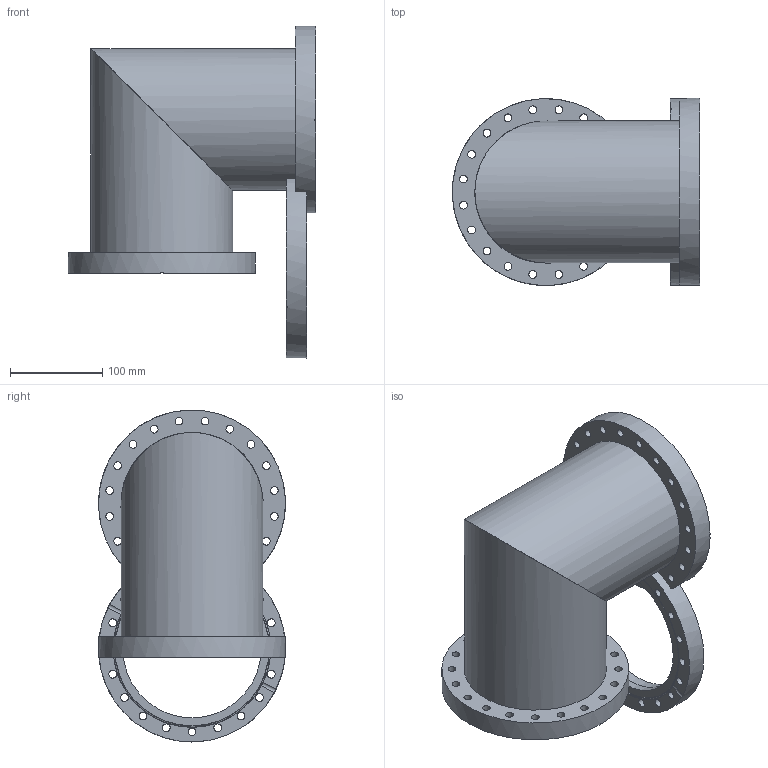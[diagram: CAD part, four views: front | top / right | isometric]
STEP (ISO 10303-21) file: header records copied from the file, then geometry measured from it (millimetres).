
FILE_DESCRIPTION( ( 'Unknown' ), '1' );
FILE_NAME( 'X:/Daten ( aktueller Bestand )/Projekte und Zeichnungen/Solid Edge/14 CF Verzweigungen/CF-Bogen und Winkel, Flansche fest/7135F.stp', 'Unknown', ( 'Unknown' ), ( 'Unknown' ), 'XStep 1.0', 'Unknown', ' ' );
FILE_SCHEMA( ( 'automotive_design' ) );
Length unit declared in the file: millimetre
Products named in the file (3): Assem1; 7135F-1; 7515F
Bounding box: 268.5 x 203 x 360.44 mm (x, y, z)
Volume: 1296435.8 mm3; surface area: 649873.2 mm2
Topology: 6 solids, 6 shells, 111 faces, 342 edges, 246 vertices
Faces by surface type: cylinder 84, plane 21, cone 6
Full cylindrical faces by diameter (mm): 8.4 x60, 150 x3, 150.5 x3, 154 x3, 154.5 x3, 171 x3, 203 x3
Entity records: 1234 total; most frequent: CARTESIAN_POINT 234, DIRECTION 200, ORIENTED_EDGE 128, EDGE_LOOP 110, AXIS2_PLACEMENT_3D 98, EDGE_CURVE 64, FACE_OUTER_BOUND 63, VERTEX_POINT 60
